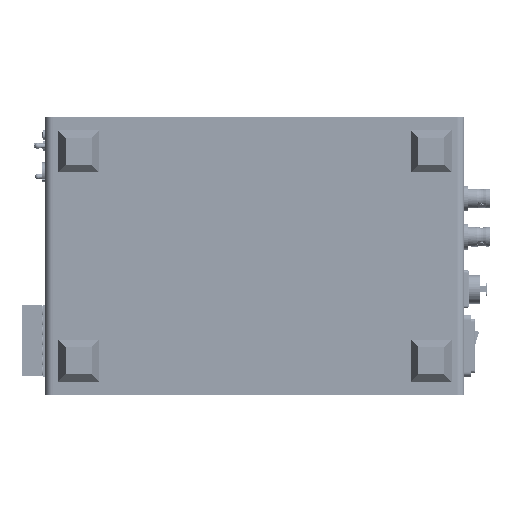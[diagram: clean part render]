
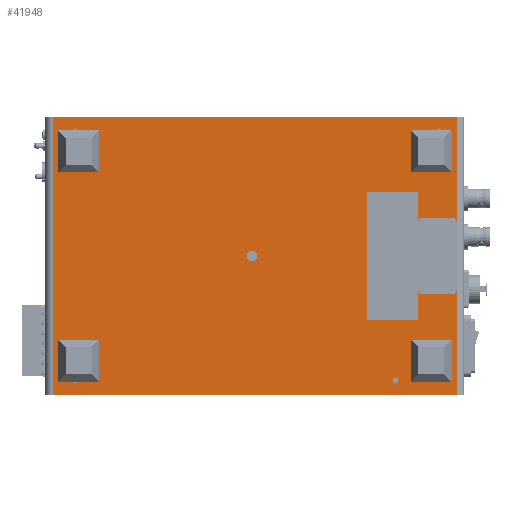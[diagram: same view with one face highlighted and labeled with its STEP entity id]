
A CAD part, front view. The second image highlights one B-rep face of the part: STEP entity #41948.
In plain terms, the highlighted planar face has unit normal (0, -1, 0) as drawn and (0, 0, 1) by its records, which use the part's own axes.
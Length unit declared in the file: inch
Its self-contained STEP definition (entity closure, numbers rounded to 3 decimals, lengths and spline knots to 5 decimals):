
#314 = CARTESIAN_POINT ( 'NONE',  ( -3.942, 0., 0.09 ) ) ;
#4365 = CARTESIAN_POINT ( 'NONE',  ( 3.5, 0.275, 0.09 ) ) ;
#9489 = VERTEX_POINT ( 'NONE', #80962 ) ;
#12282 = VECTOR ( 'NONE', #331704, 39.37008 ) ;
#24220 = DIRECTION ( 'NONE',  ( -1., 0., 0. ) ) ;
#24709 = CIRCLE ( 'NONE', #46098, 0.103 ) ;
#28656 = CARTESIAN_POINT ( 'NONE',  ( 0.05, 2.705, 0.09 ) ) ;
#31777 = LINE ( 'NONE', #441251, #12282 ) ;
#34178 = CARTESIAN_POINT ( 'NONE',  ( 3.445, 5.135, 0.09 ) ) ;
#39221 = VERTEX_POINT ( 'NONE', #233958 ) ;
#41948 = ADVANCED_FACE ( 'NONE', ( #49912, #152795, #47715, #253633, #289277, #320657 ), #114787, .F. ) ;
#46098 = AXIS2_PLACEMENT_3D ( 'NONE', #28656, #160602, #24220 ) ;
#46395 = EDGE_CURVE ( 'NONE', #237787, #237787, #291642, .T. ) ;
#47715 = FACE_BOUND ( 'NONE', #88733, .T. ) ;
#49912 = FACE_BOUND ( 'NONE', #423831, .T. ) ;
#50658 = EDGE_LOOP ( 'NONE', ( #415752 ) ) ;
#58019 = DIRECTION ( 'NONE',  ( -1., 0., 0. ) ) ;
#60746 = EDGE_CURVE ( 'NONE', #364854, #224714, #31777, .T. ) ;
#74334 = CIRCLE ( 'NONE', #381739, 0.055 ) ;
#78495 = EDGE_CURVE ( 'NONE', #104876, #39221, #141086, .T. ) ;
#80962 = CARTESIAN_POINT ( 'NONE',  ( -2.805, 5.135, 0.09 ) ) ;
#83131 = EDGE_LOOP ( 'NONE', ( #305603 ) ) ;
#84443 = CARTESIAN_POINT ( 'NONE',  ( -3.942, 0., 0.09 ) ) ;
#86960 = CARTESIAN_POINT ( 'NONE',  ( 3.942, 5.41, 0.09 ) ) ;
#88733 = EDGE_LOOP ( 'NONE', ( #200498 ) ) ;
#91970 = EDGE_LOOP ( 'NONE', ( #384105, #117670, #406190, #420377 ) ) ;
#98728 = DIRECTION ( 'NONE',  ( 1., 0., 0. ) ) ;
#100702 = LINE ( 'NONE', #102916, #292753 ) ;
#102916 = CARTESIAN_POINT ( 'NONE',  ( 3.942, 5.41, 0.09 ) ) ;
#104876 = VERTEX_POINT ( 'NONE', #84443 ) ;
#110957 = CARTESIAN_POINT ( 'NONE',  ( -3.942, 5.41, 0.09 ) ) ;
#114787 = PLANE ( 'NONE',  #345578 ) ;
#115610 = CIRCLE ( 'NONE', #208556, 0.055 ) ;
#116548 = DIRECTION ( 'NONE',  ( 0., -1., 0. ) ) ;
#116994 = DIRECTION ( 'NONE',  ( -1., 0., 0. ) ) ;
#117670 = ORIENTED_EDGE ( 'NONE', *, *, #333407, .F. ) ;
#139634 = CARTESIAN_POINT ( 'NONE',  ( -3.6, 0.275, 0.09 ) ) ;
#141086 = LINE ( 'NONE', #314, #203381 ) ;
#141232 = AXIS2_PLACEMENT_3D ( 'NONE', #139634, #343350, #236003 ) ;
#141922 = VERTEX_POINT ( 'NONE', #280631 ) ;
#150094 = LINE ( 'NONE', #362657, #166961 ) ;
#152795 = FACE_BOUND ( 'NONE', #83131, .T. ) ;
#155868 = AXIS2_PLACEMENT_3D ( 'NONE', #259023, #361979, #433582 ) ;
#160602 = DIRECTION ( 'NONE',  ( 0., 0., -1. ) ) ;
#166961 = VECTOR ( 'NONE', #116548, 39.37008 ) ;
#175486 = CARTESIAN_POINT ( 'NONE',  ( -0.053, 2.705, 0.09 ) ) ;
#200498 = ORIENTED_EDGE ( 'NONE', *, *, #402039, .F. ) ;
#203381 = VECTOR ( 'NONE', #98728, 39.37008 ) ;
#208556 = AXIS2_PLACEMENT_3D ( 'NONE', #398312, #400455, #58019 ) ;
#217460 = CARTESIAN_POINT ( 'NONE',  ( 3.445, 0.275, 0.09 ) ) ;
#224370 = DIRECTION ( 'NONE',  ( 0., 0., -1. ) ) ;
#224714 = VERTEX_POINT ( 'NONE', #86960 ) ;
#230558 = DIRECTION ( 'NONE',  ( 0., -1., 0. ) ) ;
#232513 = EDGE_CURVE ( 'NONE', #141922, #141922, #284062, .T. ) ;
#233958 = CARTESIAN_POINT ( 'NONE',  ( 3.942, 0., 0.09 ) ) ;
#236003 = DIRECTION ( 'NONE',  ( -1., 0., 0. ) ) ;
#237787 = VERTEX_POINT ( 'NONE', #34178 ) ;
#245960 = DIRECTION ( 'NONE',  ( -1., 0., 0. ) ) ;
#248184 = DIRECTION ( 'NONE',  ( 0., 0., 1. ) ) ;
#249140 = EDGE_CURVE ( 'NONE', #441998, #441998, #24709, .T. ) ;
#253633 = FACE_BOUND ( 'NONE', #50658, .T. ) ;
#259023 = CARTESIAN_POINT ( 'NONE',  ( 3.5, 5.135, 0.09 ) ) ;
#280631 = CARTESIAN_POINT ( 'NONE',  ( -3.655, 0.275, 0.09 ) ) ;
#284062 = CIRCLE ( 'NONE', #141232, 0.055 ) ;
#289277 = FACE_BOUND ( 'NONE', #427857, .T. ) ;
#289396 = ORIENTED_EDGE ( 'NONE', *, *, #249140, .T. ) ;
#291642 = CIRCLE ( 'NONE', #155868, 0.055 ) ;
#292753 = VECTOR ( 'NONE', #230558, 39.37008 ) ;
#305603 = ORIENTED_EDGE ( 'NONE', *, *, #232513, .F. ) ;
#320657 = FACE_OUTER_BOUND ( 'NONE', #91970, .T. ) ;
#322871 = CARTESIAN_POINT ( 'NONE',  ( -3.942, 5.41, 0.09 ) ) ;
#331704 = DIRECTION ( 'NONE',  ( 1., 0., 0. ) ) ;
#333407 = EDGE_CURVE ( 'NONE', #224714, #39221, #100702, .T. ) ;
#343350 = DIRECTION ( 'NONE',  ( 0., 0., 1. ) ) ;
#345578 = AXIS2_PLACEMENT_3D ( 'NONE', #322871, #224370, #116994 ) ;
#361979 = DIRECTION ( 'NONE',  ( 0., 0., 1. ) ) ;
#362657 = CARTESIAN_POINT ( 'NONE',  ( -3.942, 5.41, 0.09 ) ) ;
#364854 = VERTEX_POINT ( 'NONE', #110957 ) ;
#381739 = AXIS2_PLACEMENT_3D ( 'NONE', #4365, #248184, #245960 ) ;
#384105 = ORIENTED_EDGE ( 'NONE', *, *, #78495, .T. ) ;
#387598 = VERTEX_POINT ( 'NONE', #217460 ) ;
#398312 = CARTESIAN_POINT ( 'NONE',  ( -2.75, 5.135, 0.09 ) ) ;
#400455 = DIRECTION ( 'NONE',  ( 0., 0., 1. ) ) ;
#402039 = EDGE_CURVE ( 'NONE', #9489, #9489, #115610, .T. ) ;
#406190 = ORIENTED_EDGE ( 'NONE', *, *, #60746, .F. ) ;
#408536 = EDGE_CURVE ( 'NONE', #364854, #104876, #150094, .T. ) ;
#415752 = ORIENTED_EDGE ( 'NONE', *, *, #46395, .F. ) ;
#420377 = ORIENTED_EDGE ( 'NONE', *, *, #408536, .T. ) ;
#423831 = EDGE_LOOP ( 'NONE', ( #424885 ) ) ;
#424885 = ORIENTED_EDGE ( 'NONE', *, *, #436274, .F. ) ;
#427857 = EDGE_LOOP ( 'NONE', ( #289396 ) ) ;
#433582 = DIRECTION ( 'NONE',  ( -1., 0., 0. ) ) ;
#436274 = EDGE_CURVE ( 'NONE', #387598, #387598, #74334, .T. ) ;
#441251 = CARTESIAN_POINT ( 'NONE',  ( -3.942, 5.41, 0.09 ) ) ;
#441998 = VERTEX_POINT ( 'NONE', #175486 ) ;
